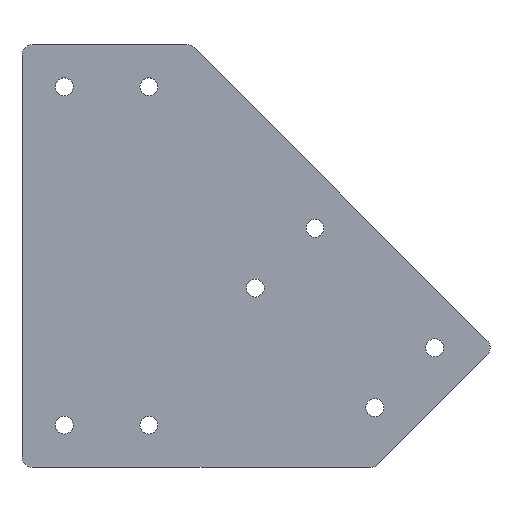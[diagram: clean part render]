
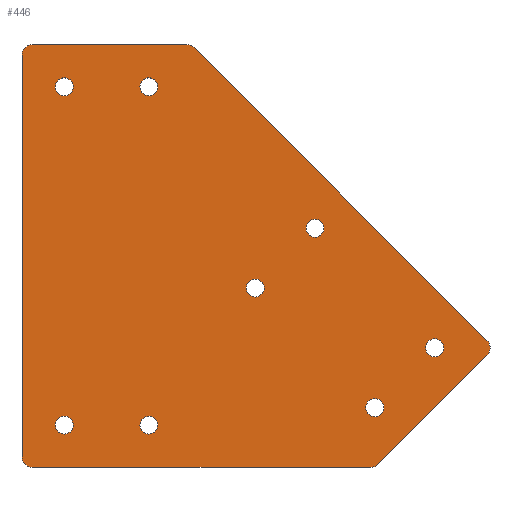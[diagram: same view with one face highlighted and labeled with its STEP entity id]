
A CAD part, top view. The second image highlights one B-rep face of the part: STEP entity #446.
In plain terms, the highlighted planar face has unit normal (0, 0, 1).
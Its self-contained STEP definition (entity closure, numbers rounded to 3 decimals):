
#23=FACE_BOUND('',#86,.T.);
#24=FACE_BOUND('',#87,.T.);
#25=FACE_BOUND('',#88,.T.);
#26=FACE_BOUND('',#89,.T.);
#27=FACE_BOUND('',#90,.T.);
#28=FACE_BOUND('',#91,.T.);
#29=FACE_BOUND('',#92,.T.);
#30=FACE_BOUND('',#93,.T.);
#37=PLANE('',#520);
#57=FACE_OUTER_BOUND('',#85,.T.);
#85=EDGE_LOOP('',(#388,#389,#390,#391,#392,#393,#394,#395,#396,#397));
#86=EDGE_LOOP('',(#398,#399));
#87=EDGE_LOOP('',(#400,#401));
#88=EDGE_LOOP('',(#402,#403));
#89=EDGE_LOOP('',(#404,#405));
#90=EDGE_LOOP('',(#406,#407));
#91=EDGE_LOOP('',(#408,#409));
#92=EDGE_LOOP('',(#410,#411));
#93=EDGE_LOOP('',(#412,#413));
#104=LINE('',#722,#132);
#111=LINE('',#750,#139);
#114=LINE('',#759,#142);
#120=LINE('',#782,#148);
#121=LINE('',#784,#149);
#132=VECTOR('',#589,10.);
#139=VECTOR('',#616,10.);
#142=VECTOR('',#625,10.);
#148=VECTOR('',#653,10.);
#149=VECTOR('',#656,10.);
#150=CIRCLE('',#468,4.25);
#151=CIRCLE('',#469,4.25);
#153=CIRCLE('',#472,4.25);
#154=CIRCLE('',#473,4.25);
#156=CIRCLE('',#476,4.25);
#157=CIRCLE('',#477,4.25);
#159=CIRCLE('',#480,4.25);
#160=CIRCLE('',#481,4.25);
#162=CIRCLE('',#484,4.25);
#163=CIRCLE('',#485,4.25);
#165=CIRCLE('',#488,4.25);
#166=CIRCLE('',#489,4.25);
#168=CIRCLE('',#492,5.);
#176=CIRCLE('',#503,5.);
#177=CIRCLE('',#506,5.);
#178=CIRCLE('',#509,5.);
#179=CIRCLE('',#511,5.);
#180=CIRCLE('',#513,4.25);
#181=CIRCLE('',#514,4.25);
#182=CIRCLE('',#516,4.25);
#183=CIRCLE('',#517,4.25);
#184=VERTEX_POINT('',#661);
#185=VERTEX_POINT('',#662);
#187=VERTEX_POINT('',#669);
#188=VERTEX_POINT('',#670);
#190=VERTEX_POINT('',#677);
#191=VERTEX_POINT('',#678);
#193=VERTEX_POINT('',#685);
#194=VERTEX_POINT('',#686);
#196=VERTEX_POINT('',#693);
#197=VERTEX_POINT('',#694);
#199=VERTEX_POINT('',#701);
#200=VERTEX_POINT('',#702);
#202=VERTEX_POINT('',#709);
#203=VERTEX_POINT('',#710);
#207=VERTEX_POINT('',#720);
#217=VERTEX_POINT('',#744);
#218=VERTEX_POINT('',#748);
#219=VERTEX_POINT('',#752);
#220=VERTEX_POINT('',#753);
#221=VERTEX_POINT('',#758);
#222=VERTEX_POINT('',#762);
#223=VERTEX_POINT('',#766);
#224=VERTEX_POINT('',#770);
#225=VERTEX_POINT('',#771);
#226=VERTEX_POINT('',#776);
#227=VERTEX_POINT('',#777);
#228=EDGE_CURVE('',#184,#185,#150,.T.);
#229=EDGE_CURVE('',#185,#184,#151,.T.);
#232=EDGE_CURVE('',#187,#188,#153,.T.);
#233=EDGE_CURVE('',#188,#187,#154,.T.);
#236=EDGE_CURVE('',#190,#191,#156,.T.);
#237=EDGE_CURVE('',#191,#190,#157,.T.);
#240=EDGE_CURVE('',#193,#194,#159,.T.);
#241=EDGE_CURVE('',#194,#193,#160,.T.);
#244=EDGE_CURVE('',#196,#197,#162,.T.);
#245=EDGE_CURVE('',#197,#196,#163,.T.);
#248=EDGE_CURVE('',#199,#200,#165,.T.);
#249=EDGE_CURVE('',#200,#199,#166,.T.);
#252=EDGE_CURVE('',#202,#203,#168,.T.);
#258=EDGE_CURVE('',#207,#202,#104,.T.);
#269=EDGE_CURVE('',#217,#207,#176,.T.);
#272=EDGE_CURVE('',#218,#217,#111,.T.);
#273=EDGE_CURVE('',#219,#220,#177,.T.);
#276=EDGE_CURVE('',#220,#221,#114,.T.);
#278=EDGE_CURVE('',#221,#222,#178,.T.);
#280=EDGE_CURVE('',#223,#218,#179,.T.);
#282=EDGE_CURVE('',#224,#225,#180,.T.);
#283=EDGE_CURVE('',#225,#224,#181,.T.);
#285=EDGE_CURVE('',#226,#227,#182,.T.);
#286=EDGE_CURVE('',#227,#226,#183,.T.);
#288=EDGE_CURVE('',#222,#223,#120,.T.);
#289=EDGE_CURVE('',#203,#219,#121,.T.);
#388=ORIENTED_EDGE('',*,*,#252,.F.);
#389=ORIENTED_EDGE('',*,*,#258,.F.);
#390=ORIENTED_EDGE('',*,*,#269,.F.);
#391=ORIENTED_EDGE('',*,*,#272,.F.);
#392=ORIENTED_EDGE('',*,*,#280,.F.);
#393=ORIENTED_EDGE('',*,*,#288,.F.);
#394=ORIENTED_EDGE('',*,*,#278,.F.);
#395=ORIENTED_EDGE('',*,*,#276,.F.);
#396=ORIENTED_EDGE('',*,*,#273,.F.);
#397=ORIENTED_EDGE('',*,*,#289,.F.);
#398=ORIENTED_EDGE('',*,*,#228,.T.);
#399=ORIENTED_EDGE('',*,*,#229,.T.);
#400=ORIENTED_EDGE('',*,*,#232,.T.);
#401=ORIENTED_EDGE('',*,*,#233,.T.);
#402=ORIENTED_EDGE('',*,*,#236,.T.);
#403=ORIENTED_EDGE('',*,*,#237,.T.);
#404=ORIENTED_EDGE('',*,*,#240,.T.);
#405=ORIENTED_EDGE('',*,*,#241,.T.);
#406=ORIENTED_EDGE('',*,*,#244,.T.);
#407=ORIENTED_EDGE('',*,*,#245,.T.);
#408=ORIENTED_EDGE('',*,*,#248,.T.);
#409=ORIENTED_EDGE('',*,*,#249,.T.);
#410=ORIENTED_EDGE('',*,*,#282,.T.);
#411=ORIENTED_EDGE('',*,*,#283,.T.);
#412=ORIENTED_EDGE('',*,*,#285,.T.);
#413=ORIENTED_EDGE('',*,*,#286,.T.);
#446=ADVANCED_FACE('',(#57,#23,#24,#25,#26,#27,#28,#29,#30),#37,.T.);
#468=AXIS2_PLACEMENT_3D('',#663,#525,#526);
#469=AXIS2_PLACEMENT_3D('',#664,#527,#528);
#472=AXIS2_PLACEMENT_3D('',#671,#534,#535);
#473=AXIS2_PLACEMENT_3D('',#672,#536,#537);
#476=AXIS2_PLACEMENT_3D('',#679,#543,#544);
#477=AXIS2_PLACEMENT_3D('',#680,#545,#546);
#480=AXIS2_PLACEMENT_3D('',#687,#552,#553);
#481=AXIS2_PLACEMENT_3D('',#688,#554,#555);
#484=AXIS2_PLACEMENT_3D('',#695,#561,#562);
#485=AXIS2_PLACEMENT_3D('',#696,#563,#564);
#488=AXIS2_PLACEMENT_3D('',#703,#570,#571);
#489=AXIS2_PLACEMENT_3D('',#704,#572,#573);
#492=AXIS2_PLACEMENT_3D('',#711,#579,#580);
#503=AXIS2_PLACEMENT_3D('',#745,#610,#611);
#506=AXIS2_PLACEMENT_3D('',#754,#619,#620);
#509=AXIS2_PLACEMENT_3D('',#763,#629,#630);
#511=AXIS2_PLACEMENT_3D('',#767,#634,#635);
#513=AXIS2_PLACEMENT_3D('',#772,#639,#640);
#514=AXIS2_PLACEMENT_3D('',#773,#641,#642);
#516=AXIS2_PLACEMENT_3D('',#778,#646,#647);
#517=AXIS2_PLACEMENT_3D('',#779,#648,#649);
#520=AXIS2_PLACEMENT_3D('',#785,#657,#658);
#525=DIRECTION('center_axis',(0.,0.,-1.));
#526=DIRECTION('ref_axis',(1.,0.,0.));
#527=DIRECTION('center_axis',(0.,0.,-1.));
#528=DIRECTION('ref_axis',(1.,0.,0.));
#534=DIRECTION('center_axis',(0.,0.,-1.));
#535=DIRECTION('ref_axis',(1.,0.,0.));
#536=DIRECTION('center_axis',(0.,0.,-1.));
#537=DIRECTION('ref_axis',(1.,0.,0.));
#543=DIRECTION('center_axis',(0.,0.,-1.));
#544=DIRECTION('ref_axis',(1.,0.,0.));
#545=DIRECTION('center_axis',(0.,0.,-1.));
#546=DIRECTION('ref_axis',(1.,0.,0.));
#552=DIRECTION('center_axis',(0.,0.,-1.));
#553=DIRECTION('ref_axis',(1.,0.,0.));
#554=DIRECTION('center_axis',(0.,0.,-1.));
#555=DIRECTION('ref_axis',(1.,0.,0.));
#561=DIRECTION('center_axis',(0.,0.,-1.));
#562=DIRECTION('ref_axis',(1.,0.,0.));
#563=DIRECTION('center_axis',(0.,0.,-1.));
#564=DIRECTION('ref_axis',(1.,0.,0.));
#570=DIRECTION('center_axis',(0.,0.,-1.));
#571=DIRECTION('ref_axis',(1.,0.,0.));
#572=DIRECTION('center_axis',(0.,0.,-1.));
#573=DIRECTION('ref_axis',(1.,0.,0.));
#579=DIRECTION('center_axis',(0.,0.,-1.));
#580=DIRECTION('ref_axis',(1.,0.,0.));
#589=DIRECTION('',(0.707,-0.707,0.));
#610=DIRECTION('center_axis',(0.,0.,-1.));
#611=DIRECTION('ref_axis',(0.383,0.924,0.));
#616=DIRECTION('',(1.,0.,0.));
#619=DIRECTION('center_axis',(0.,0.,-1.));
#620=DIRECTION('ref_axis',(0.383,-0.924,0.));
#625=DIRECTION('',(-1.,0.,0.));
#629=DIRECTION('center_axis',(0.,0.,-1.));
#630=DIRECTION('ref_axis',(-0.707,-0.707,0.));
#634=DIRECTION('center_axis',(0.,0.,-1.));
#635=DIRECTION('ref_axis',(-0.707,0.707,0.));
#639=DIRECTION('center_axis',(0.,0.,-1.));
#640=DIRECTION('ref_axis',(1.,0.,0.));
#641=DIRECTION('center_axis',(0.,0.,-1.));
#642=DIRECTION('ref_axis',(1.,0.,0.));
#646=DIRECTION('center_axis',(0.,0.,-1.));
#647=DIRECTION('ref_axis',(1.,0.,0.));
#648=DIRECTION('center_axis',(0.,0.,-1.));
#649=DIRECTION('ref_axis',(1.,0.,0.));
#653=DIRECTION('',(0.,1.,0.));
#656=DIRECTION('',(-0.707,-0.707,0.));
#657=DIRECTION('center_axis',(0.,0.,1.));
#658=DIRECTION('ref_axis',(1.,0.,0.));
#661=CARTESIAN_POINT('',(64.25,180.,3.));
#662=CARTESIAN_POINT('',(55.75,180.,3.));
#663=CARTESIAN_POINT('Origin',(60.,180.,3.));
#664=CARTESIAN_POINT('Origin',(60.,180.,3.));
#669=CARTESIAN_POINT('',(64.25,20.,3.));
#670=CARTESIAN_POINT('',(55.75,20.,3.));
#671=CARTESIAN_POINT('Origin',(60.,20.,3.));
#672=CARTESIAN_POINT('Origin',(60.,20.,3.));
#677=CARTESIAN_POINT('',(24.25,180.,3.));
#678=CARTESIAN_POINT('',(15.75,180.,3.));
#679=CARTESIAN_POINT('Origin',(20.,180.,3.));
#680=CARTESIAN_POINT('Origin',(20.,180.,3.));
#685=CARTESIAN_POINT('',(114.544,84.853,3.));
#686=CARTESIAN_POINT('',(106.044,84.853,3.));
#687=CARTESIAN_POINT('Origin',(110.294,84.853,3.));
#688=CARTESIAN_POINT('Origin',(110.294,84.853,3.));
#693=CARTESIAN_POINT('',(142.829,113.137,3.));
#694=CARTESIAN_POINT('',(134.329,113.137,3.));
#695=CARTESIAN_POINT('Origin',(138.579,113.137,3.));
#696=CARTESIAN_POINT('Origin',(138.579,113.137,3.));
#701=CARTESIAN_POINT('',(171.113,28.284,3.));
#702=CARTESIAN_POINT('',(162.613,28.284,3.));
#703=CARTESIAN_POINT('Origin',(166.863,28.284,3.));
#704=CARTESIAN_POINT('Origin',(166.863,28.284,3.));
#709=CARTESIAN_POINT('',(219.896,60.104,3.));
#710=CARTESIAN_POINT('',(219.896,53.033,3.));
#711=CARTESIAN_POINT('Origin',(216.36,56.569,3.));
#720=CARTESIAN_POINT('',(81.464,198.536,3.));
#722=CARTESIAN_POINT('',(223.431,56.569,3.));
#744=CARTESIAN_POINT('',(77.929,200.,3.));
#745=CARTESIAN_POINT('Origin',(77.929,195.,3.));
#748=CARTESIAN_POINT('',(5.,200.,3.));
#750=CARTESIAN_POINT('',(110.,200.,3.));
#752=CARTESIAN_POINT('',(168.327,1.464,3.));
#753=CARTESIAN_POINT('',(164.792,0.,3.));
#754=CARTESIAN_POINT('Origin',(164.792,5.,3.));
#758=CARTESIAN_POINT('',(5.,0.,3.));
#759=CARTESIAN_POINT('',(0.,0.,3.));
#762=CARTESIAN_POINT('',(0.,5.,3.));
#763=CARTESIAN_POINT('Origin',(5.,5.,3.));
#766=CARTESIAN_POINT('',(0.,195.,3.));
#767=CARTESIAN_POINT('Origin',(5.,195.,3.));
#770=CARTESIAN_POINT('',(199.397,56.569,3.));
#771=CARTESIAN_POINT('',(190.897,56.569,3.));
#772=CARTESIAN_POINT('Origin',(195.147,56.569,3.));
#773=CARTESIAN_POINT('Origin',(195.147,56.569,3.));
#776=CARTESIAN_POINT('',(24.25,20.,3.));
#777=CARTESIAN_POINT('',(15.75,20.,3.));
#778=CARTESIAN_POINT('Origin',(20.,20.,3.));
#779=CARTESIAN_POINT('Origin',(20.,20.,3.));
#782=CARTESIAN_POINT('',(0.,200.,3.));
#784=CARTESIAN_POINT('',(166.863,0.,3.));
#785=CARTESIAN_POINT('Origin',(87.032,88.096,3.));
